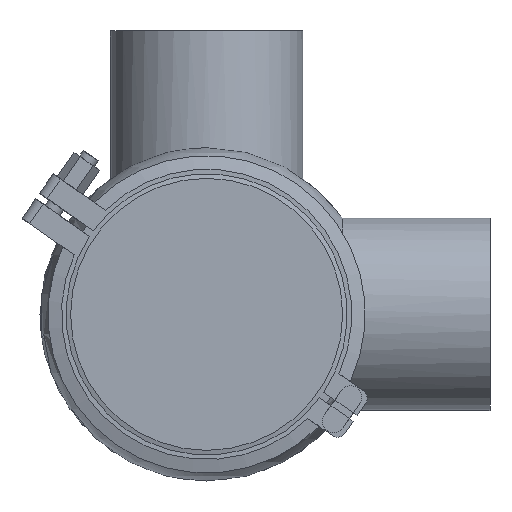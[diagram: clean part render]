
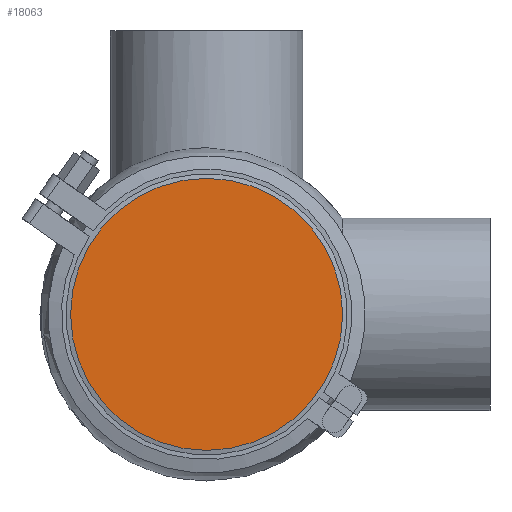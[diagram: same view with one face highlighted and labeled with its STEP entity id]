
A CAD part, front view. The second image highlights one B-rep face of the part: STEP entity #18063.
In plain terms, the highlighted planar face has unit normal (0, -1, 0).
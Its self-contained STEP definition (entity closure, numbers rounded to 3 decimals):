
#2224 = AXIS2_PLACEMENT_3D ( 'NONE', #19508, #20675, #2934 ) ;
#2934 = DIRECTION ( 'NONE',  ( 0., 0., -1. ) ) ;
#3035 = PLANE ( 'NONE',  #2224 ) ;
#4646 = DIRECTION ( 'NONE',  ( 0., 1., 0. ) ) ;
#8520 = EDGE_LOOP ( 'NONE', ( #16234 ) ) ;
#9323 = AXIS2_PLACEMENT_3D ( 'NONE', #12905, #4646, #12596 ) ;
#11303 = FACE_OUTER_BOUND ( 'NONE', #8520, .T. ) ;
#12596 = DIRECTION ( 'NONE',  ( 0., 0., 1. ) ) ;
#12905 = CARTESIAN_POINT ( 'NONE',  ( 0., 0., 0. ) ) ;
#16146 = CARTESIAN_POINT ( 'NONE',  ( 0., 0., 60. ) ) ;
#16234 = ORIENTED_EDGE ( 'NONE', *, *, #20857, .F. ) ;
#17827 = VERTEX_POINT ( 'NONE', #16146 ) ;
#18063 = ADVANCED_FACE ( 'NONE', ( #11303 ), #3035, .T. ) ;
#19508 = CARTESIAN_POINT ( 'NONE',  ( -60., 0., 0. ) ) ;
#19540 = CIRCLE ( 'NONE', #9323, 60. ) ;
#20675 = DIRECTION ( 'NONE',  ( 0., -1., 0. ) ) ;
#20857 = EDGE_CURVE ( 'NONE', #17827, #17827, #19540, .T. ) ;
